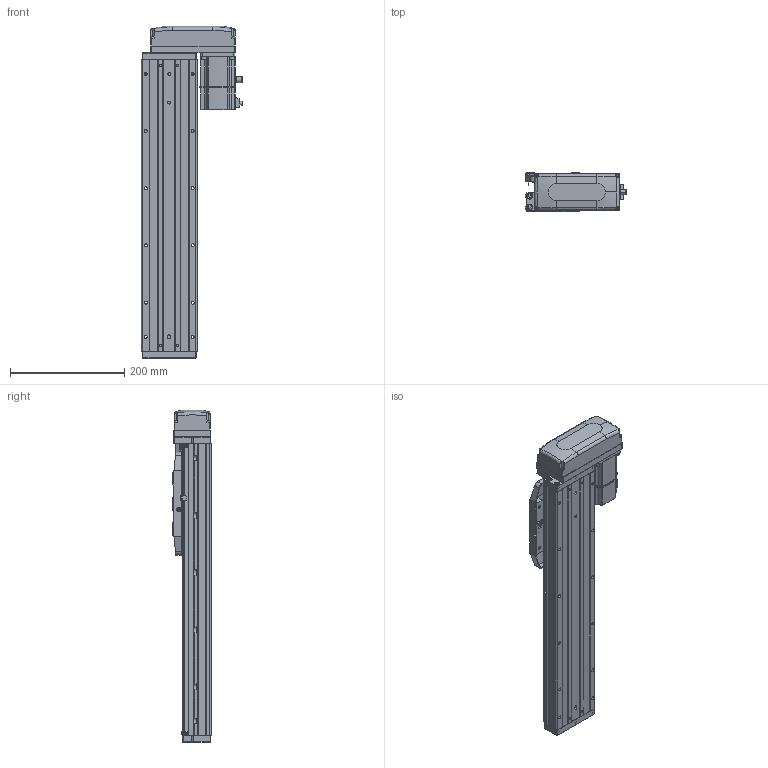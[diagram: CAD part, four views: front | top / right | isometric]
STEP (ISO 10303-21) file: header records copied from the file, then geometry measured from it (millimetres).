
FILE_DESCRIPTION (( 'STEP AP203' ), '1' );
FILE_NAME ('CTHA100-300-BL-M20-C4L.step', '2022-07-06T08:56:53', ( '微软用户' ), ( '微软中国' ), 'SwSTEP 2.0', 'SolidWorks 2020', '' );
FILE_SCHEMA (( 'CONFIG_CONTROL_DESIGN' ));
Length unit declared in the file: millimetre
Products named in the file (19): GBT 70.3-M3℅6; KTHA100-005; GBT70.1 M5℅16; CTHA86-015-1_CTHA86-015-2; GB¨uT 70.2-M3¡Á5_M3¡Á6; CTHA60-016; CTHA86-033; EE_SX911P_R; _X2_4E0983F1_X0_200W_1; CTHA100-300-BL-M20-C4L; CTHA60-017; CTHA100-002; CTHA60-021; CTHA100-031; KTHA100-001_510; GBT77-2000 M3×3; CTHA86-030; KTHA100-004; GBT 70.1-M3℅6
Assembly tree (64 placements, depth 2):
  CTHA100-300-BL-M20-C4L
    KTHA100-001_510
    KTHA100-004
    KTHA100-005
    GB¨uT 70.2-M3¡Á5_M3¡Á6  x10
    EE_SX911P_R  x3
    CTHA60-017  x3
    CTHA60-021  x2
    GBT77-2000 M3×3  x6
    GBT 70.1-M3℅6  x10
    GBT70.1 M5℅16  x14
    CTHA60-016  x2
    _X2_4E0983F1_X0_200W_1
    CTHA100-002
    CTHA100-031
    CTHA86-030  x2
    GBT 70.3-M3℅6  x4
    CTHA86-015-1_CTHA86-015-2
    CTHA86-033
Bounding box: 177.7 x 68 x 581 mm (x, y, z)
Volume: 2747833.1 mm3; surface area: 483671 mm2
Topology: 66 solids, 66 shells, 2629 faces, 6303 edges, 3904 vertices
Faces by surface type: plane 1368, cylinder 689, cone 349, torus 124, bspline 75, sphere 24
Entity records: 44700 total; most frequent: CARTESIAN_POINT 8811, DIRECTION 6874, ORIENTED_EDGE 6722, EDGE_CURVE 3361, AXIS2_PLACEMENT_3D 2339, VECTOR 2196, LINE 2196, VERTEX_POINT 2124
